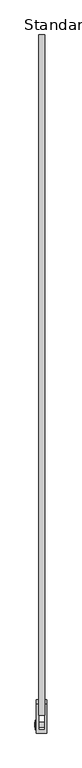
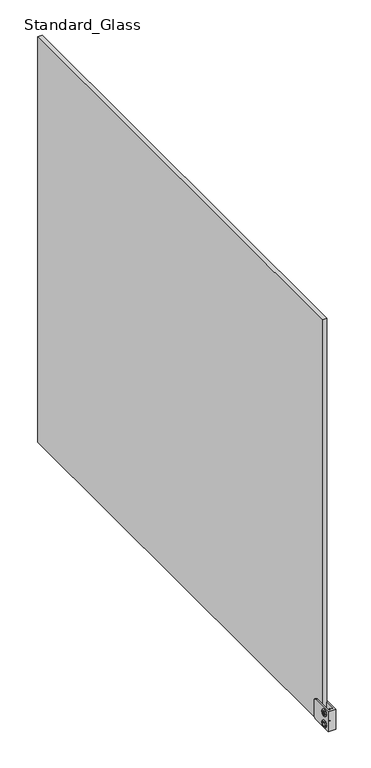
"""IFC4 building model written with IfcOpenShell, lengths in millimetres: railing geometry, Baluster-Excess-Fill-Straight-Panel-VIVA : Standard_Glass."""

from ifc_helpers import new_model, si_unit, point, frame, origin, place, context, project, spatial, polyline, circle_curve, ellipse_curve, trimmed, outline, extrude, source, transform, mapped, element, save
from ifc_brep_helpers import plane_surface, cylinder_surface, revolved_surface, advanced_brep


def standard_glass_08027069(model_context):
    return source(origin(), model_context, "Body", "SolidModel", [
        advanced_brep(
        [(36.7665, -1056.9272035, 138.7358896), (24.0665, -1056.9272035, 138.7358896), (24.0665, -1049.8363116, 138.7358896), (36.7665, -1049.8363116, 138.7358896), (24.0665, -1060.7895466, 138.7358896), (24.0665, -1045.9739685, 138.7358896), (23.199388, -1055.0378329, 138.7358896), (36.7665, -1055.0378329, 138.7358896), (36.7665, -1051.7256822, 138.7358896), (23.199388, -1051.7256822, 138.7358896), (23.2316551, -1060.7895466, 138.7358896), (21.9503831, -1059.5082746, 138.7358896), (21.9503831, -1047.2552405, 138.7358896), (23.2316551, -1045.9739685, 138.7358896), (21.9503831, -1057.6803531, 138.7358896), (21.9503831, -1049.083162, 138.7358896), (23.199388, -1057.6803531, 138.7358896), (23.199388, -1049.083162, 138.7358896)],
        [
            (0, 1),
            (1, 2, circle_curve(frame((24.0665, -1053.3817576, 138.7358896), z_axis=(1.0, 0.0, 0.0), x_axis=(0.0, 1.0, 0.0)), 3.5454459)),
            (2, 3),
            (3, 0, circle_curve(frame((36.7665, -1053.3817576, 138.7358896), z_axis=(-1.0, 0.0, 0.0), x_axis=(0.0, 1.0, 0.0)), 3.5454459)),
            (2, 1, circle_curve(frame((24.0665, -1053.3817576, 138.7358896), z_axis=(1.0, 0.0, 0.0), x_axis=(0.0, 1.0, 0.0)), 3.5454459)),
            (0, 3, circle_curve(frame((36.7665, -1053.3817576, 138.7358896), z_axis=(-1.0, 0.0, 0.0), x_axis=(0.0, 1.0, 0.0)), 3.5454459)),
            (1, 4),
            (4, 5, circle_curve(frame((24.0665, -1053.3817576, 138.7358896), z_axis=(1.0, 0.0, 0.0), x_axis=(0.0, 1.0, 0.0)), 7.4077891)),
            (5, 2),
            (5, 4, circle_curve(frame((24.0665, -1053.3817576, 138.7358896), z_axis=(1.0, 0.0, 0.0), x_axis=(0.0, 1.0, 0.0)), 7.4077891)),
            (6, 7),
            (7, 8, circle_curve(frame((36.7665, -1053.3817576, 138.7358896), z_axis=(1.0, 0.0, 0.0), x_axis=(0.0, 1.0, 0.0)), 1.6560754)),
            (8, 9),
            (9, 6, circle_curve(frame((23.199388, -1053.3817576, 138.7358896), z_axis=(-1.0, 0.0, 0.0), x_axis=(0.0, 1.0, 0.0)), 1.6560754)),
            (8, 7, circle_curve(frame((36.7665, -1053.3817576, 138.7358896), z_axis=(1.0, 0.0, 0.0), x_axis=(0.0, 1.0, 0.0)), 1.6560754)),
            (6, 9, circle_curve(frame((23.199388, -1053.3817576, 138.7358896), z_axis=(-1.0, 0.0, 0.0), x_axis=(0.0, 1.0, 0.0)), 1.6560754)),
            (10, 11, circle_curve(frame((23.2316551, -1059.5082746, 138.7358896), z_axis=(0.0, 0.0, -1.0), x_axis=(0.0, -1.0, 0.0)), 1.281272)),
            (11, 12, circle_curve(frame((21.9503831, -1053.3817576, 138.7358896), z_axis=(1.0, 0.0, 0.0), x_axis=(0.0, 1.0, 0.0)), 6.1265171)),
            (12, 13, circle_curve(frame((23.2316551, -1047.2552405, 138.7358896), z_axis=(0.0, 0.0, -1.0), x_axis=(0.0, 1.0, 0.0)), 1.281272)),
            (13, 10, circle_curve(frame((23.2316551, -1053.3817576, 138.7358896), z_axis=(-1.0, 0.0, 0.0), x_axis=(0.0, 1.0, 0.0)), 7.4077891)),
            (12, 11, circle_curve(frame((21.9503831, -1053.3817576, 138.7358896), z_axis=(1.0, 0.0, 0.0), x_axis=(0.0, 1.0, 0.0)), 6.1265171)),
            (10, 13, circle_curve(frame((23.2316551, -1053.3817576, 138.7358896), z_axis=(-1.0, 0.0, 0.0), x_axis=(0.0, 1.0, 0.0)), 7.4077891)),
            (11, 14),
            (14, 15, circle_curve(frame((21.9503831, -1053.3817576, 138.7358896), z_axis=(1.0, 0.0, 0.0), x_axis=(0.0, 1.0, 0.0)), 4.2985955)),
            (15, 12),
            (15, 14, circle_curve(frame((21.9503831, -1053.3817576, 138.7358896), z_axis=(1.0, 0.0, 0.0), x_axis=(0.0, 1.0, 0.0)), 4.2985955)),
            (4, 10),
            (13, 5),
            (7, 0),
            (3, 8),
            (14, 16),
            (16, 17, circle_curve(frame((23.199388, -1053.3817576, 138.7358896), z_axis=(1.0, 0.0, 0.0), x_axis=(0.0, 1.0, 0.0)), 4.2985955)),
            (17, 15),
            (17, 16, circle_curve(frame((23.199388, -1053.3817576, 138.7358896), z_axis=(1.0, 0.0, 0.0), x_axis=(0.0, 1.0, 0.0)), 4.2985955)),
            (16, 6),
            (9, 17),
        ],
        [
            cylinder_surface(frame((27.5632331, -1053.3817576, 138.7358896), z_axis=(1.0, 0.0, 0.0), x_axis=(0.0, 1.0, 0.0)), 3.5454459),
            plane_surface(frame((24.0665, -1053.3817576, 138.7358896), z_axis=(1.0, 0.0, 0.0), x_axis=(0.0, 1.0, 0.0))),
            revolved_surface(polyline([(36.7665, -1051.7256822, 138.7358896), (23.199388, -1051.7256822, 138.7358896)]), (27.5632331, -1053.3817576, 138.7358896), (1.0, 0.0, 0.0)),
            revolved_surface(trimmed(ellipse_curve(frame((23.2316551, -1047.2552405, 138.7358896), z_axis=(0.0, 0.0, -1.0), x_axis=(0.0, 1.0, 0.0)), 1.281272, 1.281272), [point((21.9503831, -1047.2552405, 138.7358896))], [point((23.2316551, -1045.9739685, 138.7358896))], True, "CARTESIAN"), (27.5632331, -1053.3817576, 138.7358896), (1.0, 0.0, 0.0)),
            plane_surface(frame((21.9503831, -1053.3817576, 138.7358896), z_axis=(-1.0, 0.0, 0.0), x_axis=(0.0, 1.0, 0.0))),
            cylinder_surface(frame((27.5632331, -1053.3817576, 138.7358896), z_axis=(1.0, 0.0, 0.0), x_axis=(0.0, 1.0, 0.0)), 7.4077891),
            plane_surface(frame((36.7665, -1053.3817576, 138.7358896), z_axis=(1.0, 0.0, 0.0), x_axis=(0.0, 1.0, 0.0))),
            revolved_surface(polyline([(23.199388, -1049.0831621, 138.7358896), (21.9503831, -1049.0831621, 138.7358896)]), (27.5632331, -1053.3817576, 138.7358896), (1.0, 0.0, 0.0)),
            plane_surface(frame((23.199388, -1053.3817576, 138.7358896), z_axis=(-1.0, 0.0, 0.0), x_axis=(0.0, 1.0, 0.0))),
        ],
        [
            (0, [[1, 2, 3, 4]]),
            (0, [[-3, 5, -1, 6]]),
            (1, [[7, 8, 9, -2]]),
            (1, [[-9, 10, -7, -5]]),
            (2, [[11, 12, 13, 14]]),
            (2, [[-13, 15, -11, 16]]),
            (3, [[17, 18, 19, 20]]),
            (3, [[-19, 21, -17, 22]]),
            (4, [[23, 24, 25, -18]]),
            (4, [[-25, 26, -23, -21]]),
            (5, [[27, -20, 28, -8]]),
            (5, [[-28, -22, -27, -10]]),
            (6, [[29, -4, 30, -12]]),
            (6, [[-30, -6, -29, -15]]),
            (7, [[31, 32, 33, -24]]),
            (7, [[-33, 34, -31, -26]]),
            (8, [[35, -14, 36, -32]]),
            (8, [[-36, -16, -35, -34]]),
        ],
    ),
        advanced_brep(
        [(36.7665, -1056.9272035, 114.1296396), (24.0665, -1056.9272035, 114.1296396), (24.0665, -1049.8363116, 114.1296396), (36.7665, -1049.8363116, 114.1296396), (24.0665, -1060.7895466, 114.1296396), (24.0665, -1045.9739685, 114.1296396), (23.199388, -1055.0378329, 114.1296396), (36.7665, -1055.0378329, 114.1296396), (36.7665, -1051.7256822, 114.1296396), (23.199388, -1051.7256822, 114.1296396), (23.2316551, -1060.7895466, 114.1296396), (21.9503831, -1059.5082746, 114.1296396), (21.9503831, -1047.2552405, 114.1296396), (23.2316551, -1045.9739685, 114.1296396), (21.9503831, -1057.6803531, 114.1296396), (21.9503831, -1049.083162, 114.1296396), (23.199388, -1057.6803531, 114.1296396), (23.199388, -1049.083162, 114.1296396)],
        [
            (0, 1),
            (1, 2, circle_curve(frame((24.0665, -1053.3817576, 114.1296396), z_axis=(1.0, 0.0, 0.0), x_axis=(0.0, 1.0, 0.0)), 3.5454459)),
            (2, 3),
            (3, 0, circle_curve(frame((36.7665, -1053.3817576, 114.1296396), z_axis=(-1.0, 0.0, 0.0), x_axis=(0.0, 1.0, 0.0)), 3.5454459)),
            (2, 1, circle_curve(frame((24.0665, -1053.3817576, 114.1296396), z_axis=(1.0, 0.0, 0.0), x_axis=(0.0, 1.0, 0.0)), 3.5454459)),
            (0, 3, circle_curve(frame((36.7665, -1053.3817576, 114.1296396), z_axis=(-1.0, 0.0, 0.0), x_axis=(0.0, 1.0, 0.0)), 3.5454459)),
            (1, 4),
            (4, 5, circle_curve(frame((24.0665, -1053.3817576, 114.1296396), z_axis=(1.0, 0.0, 0.0), x_axis=(0.0, 1.0, 0.0)), 7.4077891)),
            (5, 2),
            (5, 4, circle_curve(frame((24.0665, -1053.3817576, 114.1296396), z_axis=(1.0, 0.0, 0.0), x_axis=(0.0, 1.0, 0.0)), 7.4077891)),
            (6, 7),
            (7, 8, circle_curve(frame((36.7665, -1053.3817576, 114.1296396), z_axis=(1.0, 0.0, 0.0), x_axis=(0.0, 1.0, 0.0)), 1.6560754)),
            (8, 9),
            (9, 6, circle_curve(frame((23.199388, -1053.3817576, 114.1296396), z_axis=(-1.0, 0.0, 0.0), x_axis=(0.0, 1.0, 0.0)), 1.6560754)),
            (8, 7, circle_curve(frame((36.7665, -1053.3817576, 114.1296396), z_axis=(1.0, 0.0, 0.0), x_axis=(0.0, 1.0, 0.0)), 1.6560754)),
            (6, 9, circle_curve(frame((23.199388, -1053.3817576, 114.1296396), z_axis=(-1.0, 0.0, 0.0), x_axis=(0.0, 1.0, 0.0)), 1.6560754)),
            (10, 11, circle_curve(frame((23.2316551, -1059.5082746, 114.1296396), z_axis=(0.0, 0.0, -1.0), x_axis=(0.0, -1.0, 0.0)), 1.281272)),
            (11, 12, circle_curve(frame((21.9503831, -1053.3817576, 114.1296396), z_axis=(1.0, 0.0, 0.0), x_axis=(0.0, 1.0, 0.0)), 6.1265171)),
            (12, 13, circle_curve(frame((23.2316551, -1047.2552405, 114.1296396), z_axis=(0.0, 0.0, -1.0), x_axis=(0.0, 1.0, 0.0)), 1.281272)),
            (13, 10, circle_curve(frame((23.2316551, -1053.3817576, 114.1296396), z_axis=(-1.0, 0.0, 0.0), x_axis=(0.0, 1.0, 0.0)), 7.4077891)),
            (12, 11, circle_curve(frame((21.9503831, -1053.3817576, 114.1296396), z_axis=(1.0, 0.0, 0.0), x_axis=(0.0, 1.0, 0.0)), 6.1265171)),
            (10, 13, circle_curve(frame((23.2316551, -1053.3817576, 114.1296396), z_axis=(-1.0, 0.0, 0.0), x_axis=(0.0, 1.0, 0.0)), 7.4077891)),
            (11, 14),
            (14, 15, circle_curve(frame((21.9503831, -1053.3817576, 114.1296396), z_axis=(1.0, 0.0, 0.0), x_axis=(0.0, 1.0, 0.0)), 4.2985955)),
            (15, 12),
            (15, 14, circle_curve(frame((21.9503831, -1053.3817576, 114.1296396), z_axis=(1.0, 0.0, 0.0), x_axis=(0.0, 1.0, 0.0)), 4.2985955)),
            (7, 0),
            (3, 8),
            (4, 10),
            (13, 5),
            (14, 16),
            (16, 17, circle_curve(frame((23.199388, -1053.3817576, 114.1296396), z_axis=(1.0, 0.0, 0.0), x_axis=(0.0, 1.0, 0.0)), 4.2985955)),
            (17, 15),
            (17, 16, circle_curve(frame((23.199388, -1053.3817576, 114.1296396), z_axis=(1.0, 0.0, 0.0), x_axis=(0.0, 1.0, 0.0)), 4.2985955)),
            (16, 6),
            (9, 17),
        ],
        [
            cylinder_surface(frame((27.5632331, -1053.3817576, 114.1296396), z_axis=(1.0, 0.0, 0.0), x_axis=(0.0, 1.0, 0.0)), 3.5454459),
            plane_surface(frame((24.0665, -1053.3817576, 114.1296396), z_axis=(1.0, 0.0, 0.0), x_axis=(0.0, 1.0, 0.0))),
            revolved_surface(polyline([(36.7665, -1051.7256822, 114.1296396), (23.199388, -1051.7256822, 114.1296396)]), (27.5632331, -1053.3817576, 114.1296396), (1.0, 0.0, 0.0)),
            revolved_surface(trimmed(ellipse_curve(frame((23.2316551, -1047.2552405, 114.1296396), z_axis=(0.0, 0.0, -1.0), x_axis=(0.0, 1.0, 0.0)), 1.281272, 1.281272), [point((21.9503831, -1047.2552405, 114.1296396))], [point((23.2316551, -1045.9739685, 114.1296396))], True, "CARTESIAN"), (27.5632331, -1053.3817576, 114.1296396), (1.0, 0.0, 0.0)),
            plane_surface(frame((21.9503831, -1053.3817576, 114.1296396), z_axis=(-1.0, 0.0, 0.0), x_axis=(0.0, 1.0, 0.0))),
            plane_surface(frame((36.7665, -1053.3817576, 114.1296396), z_axis=(1.0, 0.0, 0.0), x_axis=(0.0, 1.0, 0.0))),
            cylinder_surface(frame((27.5632331, -1053.3817576, 114.1296396), z_axis=(1.0, 0.0, 0.0), x_axis=(0.0, 1.0, 0.0)), 7.4077891),
            revolved_surface(polyline([(23.199388, -1049.0831621, 114.1296396), (21.9503831, -1049.0831621, 114.1296396)]), (27.5632331, -1053.3817576, 114.1296396), (1.0, 0.0, 0.0)),
            plane_surface(frame((23.199388, -1053.3817576, 114.1296396), z_axis=(-1.0, 0.0, 0.0), x_axis=(0.0, 1.0, 0.0))),
        ],
        [
            (0, [[1, 2, 3, 4]]),
            (0, [[-3, 5, -1, 6]]),
            (1, [[7, 8, 9, -2]]),
            (1, [[-9, 10, -7, -5]]),
            (2, [[11, 12, 13, 14]]),
            (2, [[-13, 15, -11, 16]]),
            (3, [[17, 18, 19, 20]]),
            (3, [[-19, 21, -17, 22]]),
            (4, [[23, 24, 25, -18]]),
            (4, [[-25, 26, -23, -21]]),
            (5, [[27, -4, 28, -12]]),
            (5, [[-28, -6, -27, -15]]),
            (6, [[29, -20, 30, -8]]),
            (6, [[-30, -22, -29, -10]]),
            (7, [[31, 32, 33, -24]]),
            (7, [[-33, 34, -31, -26]]),
            (8, [[35, -14, 36, -32]]),
            (8, [[-36, -16, -35, -34]]),
        ],
    ),
        extrude(outline(polyline([(-1057.4756859, 114.1296396), (-1055.4287217, 117.6750855), (-1051.3347934, 117.6750855), (-1049.2878293, 114.1296396), (-1051.3347934, 110.5841937), (-1055.4287217, 110.5841937), (-1057.4756859, 114.1296396)])), frame((21.7024185, 0.0, 0.0), z_axis=(1.0, 0.0, 0.0), x_axis=(0.0, 1.0, 0.0)), (0.0, 0.0, 1.0), 1.4969696),
        advanced_brep(
        [(24.0665, -1066.0151023, 148.6577646), (24.0665, -1021.5651023, 148.6577646), (24.0665, -1015.2151023, 142.3077646), (24.0665, -1015.2151023, 110.5577646), (24.0665, -1021.5651023, 104.2077646), (24.0665, -1066.0151023, 104.2077646), (39.9415, -1066.0151023, 148.6577646), (39.9415, -1066.0151023, 104.2077646), (39.9415, -1021.5651023, 104.2077646), (39.9415, -1015.2151023, 110.5577646), (39.9415, -1015.2151023, 142.3077646), (39.9415, -1021.5651023, 148.6577646), (27.2415, -1021.5651023, 104.2077646), (27.2415, -1061.2970219, 104.2077646), (36.7665, -1061.2970219, 104.2077646), (36.7665, -1021.5651023, 104.2077646), (27.2415, -1061.2970219, 148.6577646), (36.7665, -1061.2970219, 148.6577646), (27.2415, -1015.2151023, 110.5577646), (27.2415, -1015.2151023, 142.3077646), (27.2415, -1021.5651023, 148.6577646), (36.7665, -1021.5651023, 148.6577646), (36.7665, -1015.2151023, 142.3077646), (36.7665, -1015.2151023, 110.5577646)],
        [
            (0, 1),
            (1, 2, circle_curve(frame((24.0665, -1021.5651023, 142.3077646), z_axis=(-1.0, 0.0, 0.0), x_axis=(0.0, 1.0, 0.0)), 6.35)),
            (2, 3),
            (3, 4, circle_curve(frame((24.0665, -1021.5651023, 110.5577646), z_axis=(-1.0, 0.0, 0.0), x_axis=(0.0, 1.0, 0.0)), 6.35)),
            (4, 5),
            (5, 0),
            (6, 7),
            (7, 8),
            (8, 9, circle_curve(frame((39.9415, -1021.5651023, 110.5577646), z_axis=(1.0, 0.0, 0.0), x_axis=(0.0, 1.0, 0.0)), 6.35)),
            (9, 10),
            (10, 11, circle_curve(frame((39.9415, -1021.5651023, 142.3077646), z_axis=(1.0, 0.0, 0.0), x_axis=(0.0, 1.0, 0.0)), 6.35)),
            (11, 6),
            (5, 7),
            (6, 0),
            (4, 12),
            (12, 13),
            (13, 14),
            (14, 15),
            (15, 8),
            (13, 16),
            (16, 17),
            (17, 14),
            (12, 18, circle_curve(frame((27.2415, -1021.5651023, 110.5577646), z_axis=(1.0, 0.0, 0.0), x_axis=(0.0, 1.0, 0.0)), 6.35)),
            (18, 19),
            (19, 20, circle_curve(frame((27.2415, -1021.5651023, 142.3077646), z_axis=(1.0, 0.0, 0.0), x_axis=(0.0, 1.0, 0.0)), 6.35)),
            (20, 16),
            (17, 21),
            (21, 22, circle_curve(frame((36.7665, -1021.5651023, 142.3077646), z_axis=(-1.0, 0.0, 0.0), x_axis=(0.0, 1.0, 0.0)), 6.35)),
            (22, 23),
            (23, 15, circle_curve(frame((36.7665, -1021.5651023, 110.5577646), z_axis=(-1.0, 0.0, 0.0), x_axis=(0.0, 1.0, 0.0)), 6.35)),
            (23, 9),
            (3, 18),
            (22, 10),
            (2, 19),
            (21, 11),
            (1, 20),
        ],
        [
            plane_surface(frame((24.0665, -1066.0151023, 104.2077646), z_axis=(-1.0, 0.0, 0.0), x_axis=(0.0, 0.0, -1.0))),
            plane_surface(frame((39.9415, -1066.0151023, 104.2077646), z_axis=(1.0, 0.0, 0.0), x_axis=(0.0, 0.0, 1.0))),
            plane_surface(frame((24.0665, -1066.0151023, 148.6577646), z_axis=(0.0, -1.0, 0.0), x_axis=(1.0, 0.0, 0.0))),
            plane_surface(frame((24.0665, -1066.0151023, 104.2077646), z_axis=(0.0, 0.0, -1.0), x_axis=(1.0, 0.0, 0.0))),
            plane_surface(frame((36.7665, -1061.2970219, 161.3577646), z_axis=(0.0, 1.0, 0.0), x_axis=(0.0, 0.0, -1.0))),
            plane_surface(frame((27.2415, -1061.2970219, 161.3577646), z_axis=(1.0, 0.0, 0.0), x_axis=(0.0, 0.0, -1.0))),
            plane_surface(frame((36.7665, -1002.5151023, 161.3577646), z_axis=(-1.0, 0.0, 0.0), x_axis=(0.0, 0.0, -1.0))),
            cylinder_surface(frame((39.9415, -1021.5651023, 110.5577646), z_axis=(-1.0, 0.0, 0.0), x_axis=(0.0, 1.0, 0.0)), 6.35),
            plane_surface(frame((24.0665, -1015.2151023, 110.5577646), z_axis=(0.0, 1.0, 0.0), x_axis=(1.0, 0.0, 0.0))),
            cylinder_surface(frame((39.9415, -1021.5651023, 142.3077646), z_axis=(-1.0, 0.0, 0.0), x_axis=(0.0, 1.0, 0.0)), 6.35),
            plane_surface(frame((24.0665, -1021.5651023, 148.6577646), z_axis=(0.0, 0.0, 1.0), x_axis=(1.0, 0.0, 0.0))),
        ],
        [
            (0, [[1, 2, 3, 4, 5, 6]]),
            (1, [[7, 8, 9, 10, 11, 12]]),
            (2, [[13, -7, 14, -6]]),
            (3, [[15, 16, 17, 18, 19, -8, -13, -5]]),
            (4, [[-17, 20, 21, 22]]),
            (5, [[-16, 23, 24, 25, 26, -20]]),
            (6, [[27, 28, 29, 30, -18, -22]]),
            (7, [[-19, -30, 31, -9]]),
            (7, [[32, -23, -15, -4]]),
            (8, [[-31, -29, 33, -10]]),
            (8, [[34, -24, -32, -3]]),
            (9, [[-33, -28, 35, -11]]),
            (9, [[36, -25, -34, -2]]),
            (10, [[-14, -12, -35, -27, -21, -26, -36, -1]]),
        ],
    ),
        extrude(outline(polyline([(36.7665, -1.0851207), (36.7665, -1039.0720219), (27.2415, -1039.0720219), (27.2415, -1.0851207), (36.7665, -1.0851207)])), frame((0.0, 0.0, 101.6), z_axis=(0.0, 0.0, 1.0), x_axis=(1.0, 0.0, 0.0)), (0.0, 0.0, 1.0), 901.7),
    ])


if __name__ == "__main__":
    model = new_model("IFC4")
    model_context = context("Model", 3, world=origin())
    ifc_project = project(units=[si_unit("LENGTHUNIT", "METRE", prefix="MILLI")], contexts=[model_context])
    site = spatial("IfcSite", under=ifc_project)
    building = spatial("IfcBuilding", under=site)
    placement = place(None, origin())
    standard_glass_shape = standard_glass_08027069(model_context)
    element("IfcRailing", 1, ObjectType="Baluster-Excess-Fill-Straight-Panel-VIVA : Standard_Glass", at=placement, inside=building, context=model_context, shape_type="MappedRepresentation", body=[
        mapped(standard_glass_shape, transform((0.0, 0.0, 0.0), x_axis=(1.0, 0.0, 0.0), y_axis=(0.0, 1.0, 0.0), z_axis=(0.0, 0.0, 1.0))),
    ])
    save(model, "model.ifc")
